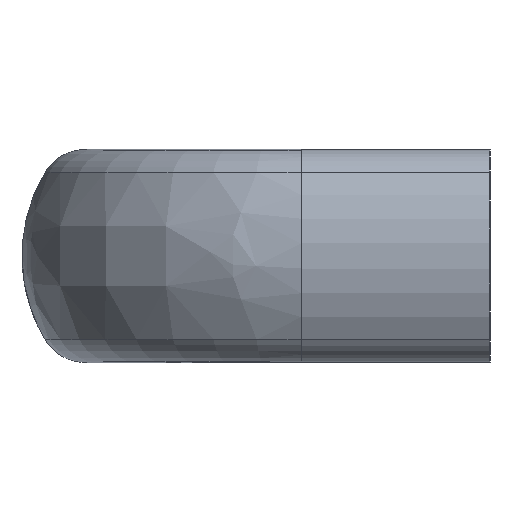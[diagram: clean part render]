
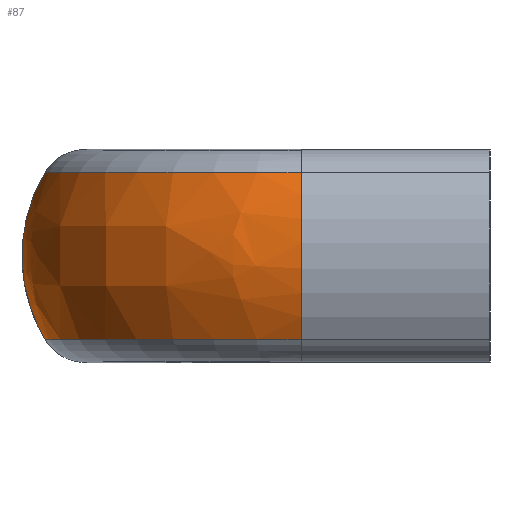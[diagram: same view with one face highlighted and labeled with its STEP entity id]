
A CAD part, left-side view. The second image highlights one B-rep face of the part: STEP entity #87.
In plain terms, the highlighted free-form (B-spline) face has degree [3, 3] with [4, 4] control points.
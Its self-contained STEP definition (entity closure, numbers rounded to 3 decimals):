
#87 = ADVANCED_FACE( '', ( #155 ), #156, .T. );
#155 = FACE_OUTER_BOUND( '', #265, .T. );
#156 = ( BOUNDED_SURFACE(  )B_SPLINE_SURFACE( 3, 3, ( ( #268, #269, #270, #271 ), ( #272, #273, #274, #275 ), ( #276, #277, #278, #279 ), ( #280, #281, #282, #283 ) ), .UNSPECIFIED., .F., .F., .F. )B_SPLINE_SURFACE_WITH_KNOTS( ( 4, 4 ), ( 4, 4 ), ( 1.571, 3.142 ), ( -0.537, 0.537 ), .UNSPECIFIED. )GEOMETRIC_REPRESENTATION_ITEM(  )RATIONAL_B_SPLINE_SURFACE( ( ( 1., 0.805, 0.805, 1. ), ( 0.906, 0.729, 0.729, 0.906 ), ( 0.906, 0.729, 0.729, 0.906 ), ( 1., 0.805, 0.805, 1. ) ) )REPRESENTATION_ITEM( '' )SURFACE(  ) );
#265 = EDGE_LOOP( '', ( #477, #478, #479, #480, #481 ) );
#268 = CARTESIAN_POINT( '', ( -64., 54.189, 10.177 ) );
#269 = CARTESIAN_POINT( '', ( -82.27, 54.189, 10.177 ) );
#270 = CARTESIAN_POINT( '', ( -95.189, 41.27, 10.177 ) );
#271 = CARTESIAN_POINT( '', ( -95.189, 23., 10.177 ) );
#272 = CARTESIAN_POINT( '', ( -64., 58.02, 3.744 ) );
#273 = CARTESIAN_POINT( '', ( -84.514, 58.02, 3.744 ) );
#274 = CARTESIAN_POINT( '', ( -99.02, 43.514, 3.744 ) );
#275 = CARTESIAN_POINT( '', ( -99.02, 23., 3.744 ) );
#276 = CARTESIAN_POINT( '', ( -64., 58.02, -3.744 ) );
#277 = CARTESIAN_POINT( '', ( -84.514, 58.02, -3.744 ) );
#278 = CARTESIAN_POINT( '', ( -99.02, 43.514, -3.744 ) );
#279 = CARTESIAN_POINT( '', ( -99.02, 23., -3.744 ) );
#280 = CARTESIAN_POINT( '', ( -64., 54.189, -10.177 ) );
#281 = CARTESIAN_POINT( '', ( -82.27, 54.189, -10.177 ) );
#282 = CARTESIAN_POINT( '', ( -95.189, 41.27, -10.177 ) );
#283 = CARTESIAN_POINT( '', ( -95.189, 23., -10.177 ) );
#477 = ORIENTED_EDGE( '', *, *, #834, .T. );
#478 = ORIENTED_EDGE( '', *, *, #835, .F. );
#479 = ORIENTED_EDGE( '', *, *, #836, .F. );
#480 = ORIENTED_EDGE( '', *, *, #806, .T. );
#481 = ORIENTED_EDGE( '', *, *, #805, .T. );
#805 = EDGE_CURVE( '', #941, #942, #943, .T. );
#806 = EDGE_CURVE( '', #944, #941, #945, .T. );
#834 = EDGE_CURVE( '', #942, #994, #996, .T. );
#835 = EDGE_CURVE( '', #997, #994, #998, .T. );
#836 = EDGE_CURVE( '', #944, #997, #999, .T. );
#941 = VERTEX_POINT( '', #1149 );
#942 = VERTEX_POINT( '', #1150 );
#943 = B_SPLINE_CURVE_WITH_KNOTS( '', 3, ( #1151, #1152, #1153, #1154, #1155, #1156 ), .UNSPECIFIED., .F., .F., ( 4, 2, 4 ), ( 0., 0.5, 1. ), .UNSPECIFIED. );
#944 = VERTEX_POINT( '', #1157 );
#945 = B_SPLINE_CURVE_WITH_KNOTS( '', 3, ( #1158, #1159, #1160, #1161, #1162, #1163 ), .UNSPECIFIED., .F., .F., ( 4, 2, 4 ), ( 0., 0.5, 1. ), .UNSPECIFIED. );
#994 = VERTEX_POINT( '', #1246 );
#996 = CIRCLE( '', #1248, 31.189 );
#997 = VERTEX_POINT( '', #1249 );
#998 = CIRCLE( '', #1250, 19.889 );
#999 = CIRCLE( '', #1251, 31.189 );
#1149 = CARTESIAN_POINT( '', ( -64., 56.995, 0.043 ) );
#1150 = CARTESIAN_POINT( '', ( -64., 54.189, -10.184 ) );
#1151 = CARTESIAN_POINT( '', ( -64., 56.99, 0.043 ) );
#1152 = CARTESIAN_POINT( '', ( -64., 56.994, -1.745 ) );
#1153 = CARTESIAN_POINT( '', ( -64., 56.755, -3.533 ) );
#1154 = CARTESIAN_POINT( '', ( -64., 55.81, -6.981 ) );
#1155 = CARTESIAN_POINT( '', ( -64., 55.104, -8.641 ) );
#1156 = CARTESIAN_POINT( '', ( -64., 54.189, -10.177 ) );
#1157 = CARTESIAN_POINT( '', ( -64., 54.188, 10.185 ) );
#1158 = CARTESIAN_POINT( '', ( -64., 54.189, 10.177 ) );
#1159 = CARTESIAN_POINT( '', ( -64., 55.097, 8.653 ) );
#1160 = CARTESIAN_POINT( '', ( -64., 55.799, 7.008 ) );
#1161 = CARTESIAN_POINT( '', ( -64., 56.744, 3.589 ) );
#1162 = CARTESIAN_POINT( '', ( -64., 56.986, 1.816 ) );
#1163 = CARTESIAN_POINT( '', ( -64., 56.99, 0.043 ) );
#1246 = CARTESIAN_POINT( '', ( -95.189, 23., -10.177 ) );
#1248 = AXIS2_PLACEMENT_3D( '', #1481, #1482, #1483 );
#1249 = CARTESIAN_POINT( '', ( -95.189, 23., 10.177 ) );
#1250 = AXIS2_PLACEMENT_3D( '', #1484, #1485, #1486 );
#1251 = AXIS2_PLACEMENT_3D( '', #1487, #1488, #1489 );
#1481 = CARTESIAN_POINT( '', ( -64., 23., -10.177 ) );
#1482 = DIRECTION( '', ( 0., 0., 1. ) );
#1483 = DIRECTION( '', ( 1., 0., 0. ) );
#1484 = CARTESIAN_POINT( '', ( -78.101, 23., 0. ) );
#1485 = DIRECTION( '', ( 0., -1., 0. ) );
#1486 = DIRECTION( '', ( 0., 0., 1. ) );
#1487 = CARTESIAN_POINT( '', ( -64., 23., 10.177 ) );
#1488 = DIRECTION( '', ( 0., 0., 1. ) );
#1489 = DIRECTION( '', ( 1., 0., 0. ) );
